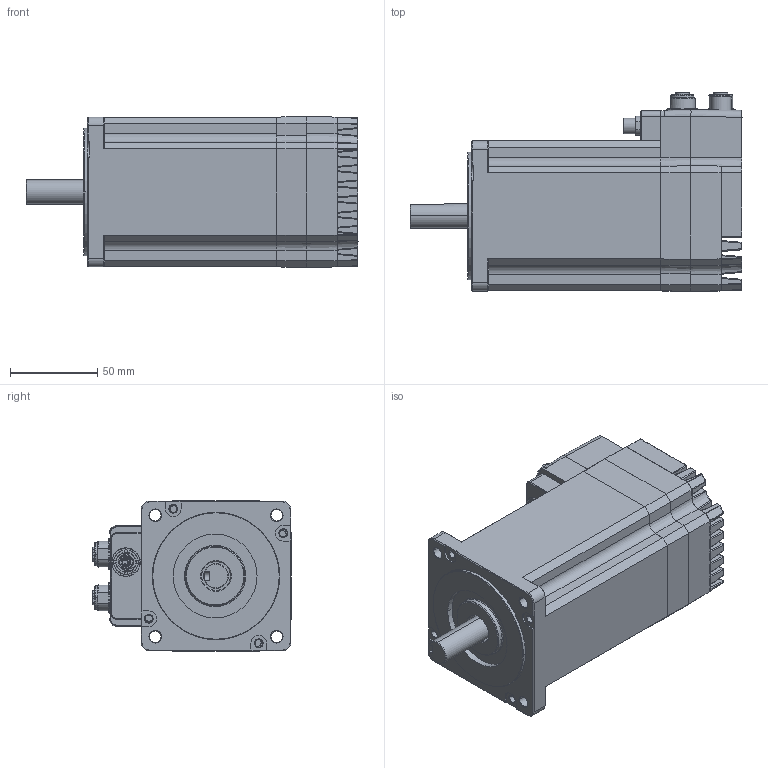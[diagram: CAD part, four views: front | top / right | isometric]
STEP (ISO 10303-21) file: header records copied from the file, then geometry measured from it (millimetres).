
FILE_DESCRIPTION((''),'2;1');
FILE_NAME('STEPPERASSY_ASM','2023-05-06T15:53:34',('Administrator'),(''),'CREO PARAMETRIC BY PTC INC, 2022014','CREO PARAMETRIC BY PTC INC, 2022014','');
FILE_SCHEMA(('AUTOMOTIVE_DESIGN { 1 0 10303 214 1 1 1 1 }'));
Products named in the file (11): M34_CON_R1; M34_CON_R2; MIS34_F_CONNECTOR; MIS34_STO_PIN; M34_S14K; N34PIN1; N34PIN2; N34PIN3; N34PIN4; M34_ASM; STEPPERASSY_ASM
Assembly tree (10 placements, depth 3):
  STEPPERASSY_ASM
    M34_ASM
      M34_CON_R1
      M34_CON_R2
      MIS34_F_CONNECTOR
      MIS34_STO_PIN
      M34_S14K
      N34PIN1
      N34PIN2
      N34PIN3
      N34PIN4
Bounding box: 190.1 x 113.9 x 86.41 mm (x, y, z)
Volume: 1056111 mm3; surface area: 135070 mm2
Topology: 9 solids, 10 shells, 1418 faces, 3942 edges, 2527 vertices
Faces by surface type: plane 568, cylinder 559, sphere 111, cone 110, bspline 52, torus 10, extrusion 8
Entity records: 67600 total; most frequent: CARTESIAN_POINT 14432, DIRECTION 7743, ORIENTED_EDGE 7528, PRESENTATION_STYLE_ASSIGNMENT 4123, STYLED_ITEM 3874, CURVE_STYLE 3865, EDGE_CURVE 3764, AXIS2_PLACEMENT_3D 2892
